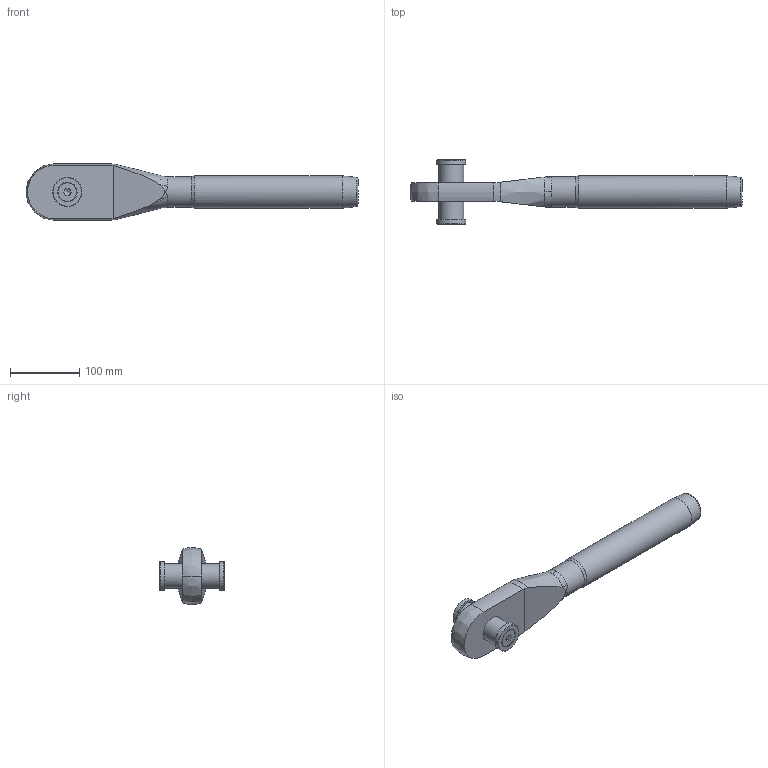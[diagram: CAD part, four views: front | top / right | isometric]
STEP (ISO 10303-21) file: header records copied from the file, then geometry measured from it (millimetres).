
FILE_DESCRIPTION(/* description */ (''),/* implementation_level */ '2;1');
FILE_NAME(/* name */ 'MCC 26_1,4418',/* time_stamp */ '2023-05-23T15:40:36+02:00',/* author */ (''),/* organization */ (''),/* preprocessor_version */ 'ST-DEVELOPER v16.5',/* originating_system */ 'Rhino 7.22',/* authorisation */ '');
FILE_SCHEMA (('CONFIG_CONTROL_DESIGN'));
Length unit declared in the file: millimetre
Products named in the file (1): Document
Bounding box: 480 x 93.15 x 82 mm (x, y, z)
Volume: 944419.6 mm3; surface area: 106607.4 mm2
Topology: 6 solids, 6 shells, 74 faces, 203 edges, 135 vertices
Faces by surface type: bspline 31, plane 27, cylinder 16
Full cylindrical faces by diameter (mm): 11.835 x2, 14 x2, 14.5 x2, 26.52 x2, 36 x1, 38 x1, 42 x2, 44.5 x1, 46.8 x1
Entity records: 3245 total; most frequent: CARTESIAN_POINT 1990, ORIENTED_EDGE 386, EDGE_CURVE 193, VERTEX_POINT 135, EDGE_LOOP 84, ADVANCED_FACE 74, FACE_OUTER_BOUND 74, B_SPLINE_CURVE_WITH_KNOTS 64
